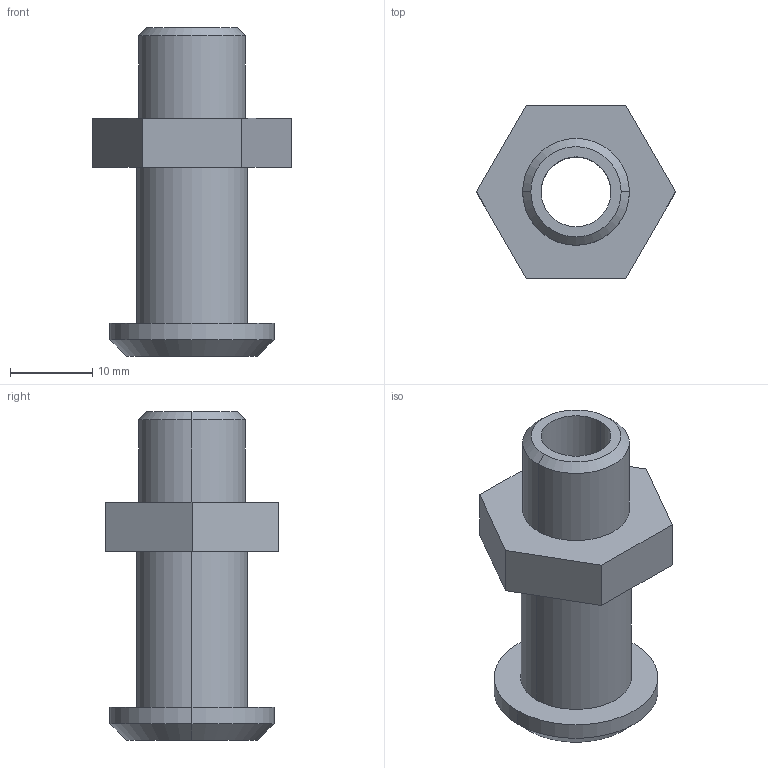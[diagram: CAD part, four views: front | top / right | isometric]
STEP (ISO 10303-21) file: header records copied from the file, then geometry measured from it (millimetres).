
FILE_DESCRIPTION (( 'STEP AP214' ), '1' );
FILE_NAME ('VM41-G14.STEP', '2023-03-07T09:13:25', ( 'Windows User' ), ( 'P R C' ), 'SwSTEP 2.0', 'SolidWorks 2019', '' );
FILE_SCHEMA (( 'AUTOMOTIVE_DESIGN' ));
Length unit declared in the file: millimetre
Products named in the file (1): VM41-G14
Bounding box: 24.25 x 21 x 40 mm (x, y, z)
Volume: 5263.1 mm3; surface area: 3926.8 mm2
Topology: 1 solids, 1 shells, 35 faces, 80 edges, 50 vertices
Faces by surface type: plane 23, cylinder 8, cone 4
Entity records: 1018 total; most frequent: DIRECTION 178, CARTESIAN_POINT 166, ORIENTED_EDGE 160, EDGE_CURVE 80, AXIS2_PLACEMENT_3D 62, VECTOR 54, LINE 54, VERTEX_POINT 50
